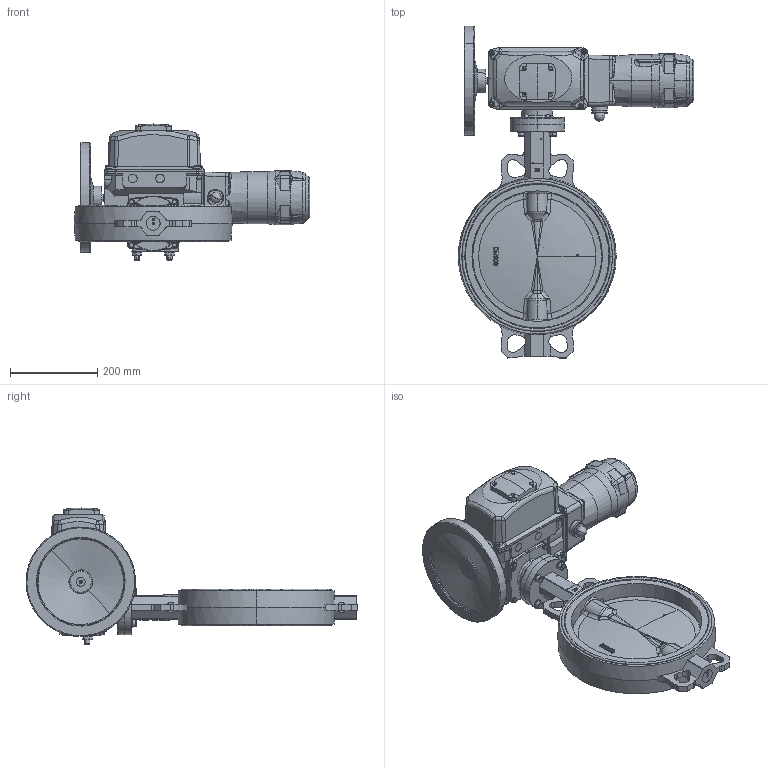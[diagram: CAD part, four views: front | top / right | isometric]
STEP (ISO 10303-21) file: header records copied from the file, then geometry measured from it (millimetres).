
FILE_DESCRIPTION (( 'STEP AP203' ), '1' );
FILE_NAME ('VPI-B04 DN300.step', '2016-09-29T14:39:12', ( 'TECOFI' ), ( '' ), 'SwSTEP 2.0', 'SolidWorks 2014', '' );
FILE_SCHEMA (( 'CONFIG_CONTROL_DESIGN' ));
Products named in the file (1): VPI-B04 DN300
Bounding box: 541.3 x 762.88 x 312.57 mm (x, y, z)
Volume: 14601838 mm3; surface area: 1102395.3 mm2
Topology: 14 solids, 14 shells, 2349 faces, 6074 edges, 3786 vertices
Faces by surface type: plane 1009, cylinder 459, bspline 436, torus 215, cone 193, sphere 37
Entity records: 104714 total; most frequent: CARTESIAN_POINT 51355, ORIENTED_EDGE 11960, DIRECTION 9950, EDGE_CURVE 5980, VERTEX_POINT 3783, AXIS2_PLACEMENT_3D 3634, LINE 2682, VECTOR 2682
